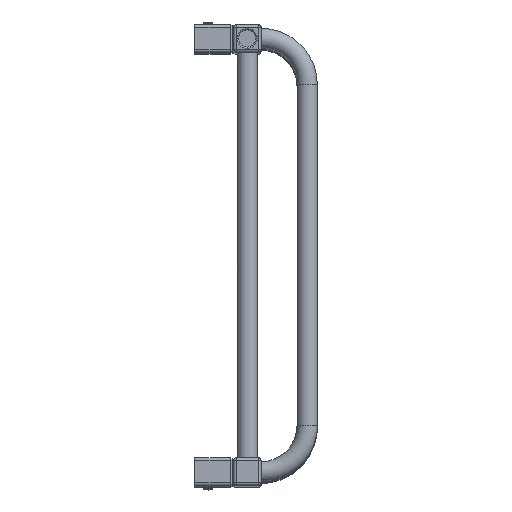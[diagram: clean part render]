
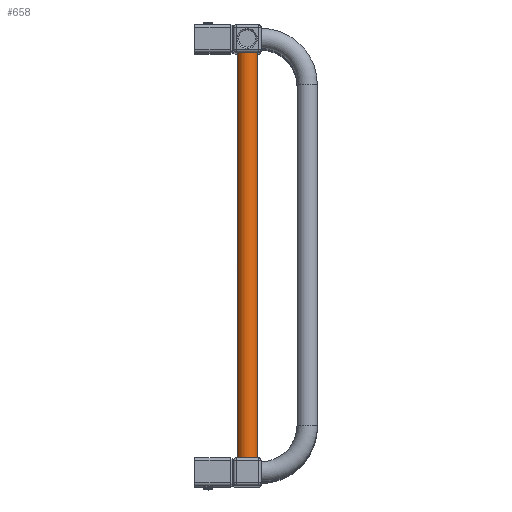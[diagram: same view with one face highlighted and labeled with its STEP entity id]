
A CAD part, top view. The second image highlights one B-rep face of the part: STEP entity #658.
In plain terms, the highlighted cylindrical face has radius 11 mm (diameter 22 mm), a full revolution.
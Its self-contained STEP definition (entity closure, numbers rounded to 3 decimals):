
#631=CARTESIAN_POINT('',(0.0,-220.0,910.));
#632=DIRECTION('',(0.0,1.0,0.0));
#633=DIRECTION('',(-1.0,0.0,0.0));
#634=AXIS2_PLACEMENT_3D('',#631,#632,#633);
#635=CYLINDRICAL_SURFACE('',#634,11.);
#636=CARTESIAN_POINT('',(11.,-220.0,910.));
#637=VERTEX_POINT('',#636);
#638=CARTESIAN_POINT('',(0.0,-220.0,910.));
#639=DIRECTION('',(0.0,-1.0,0.0));
#640=DIRECTION('',(-1.0,0.0,0.0));
#641=AXIS2_PLACEMENT_3D('',#638,#639,#640);
#642=CIRCLE('',#641,11.);
#643=EDGE_CURVE('',#637,#637,#642,.T.);
#644=ORIENTED_EDGE('',*,*,#643,.F.);
#645=EDGE_LOOP('',(#644));
#646=FACE_OUTER_BOUND('',#645,.T.);
#647=CARTESIAN_POINT('',(11.,220.0,910.));
#648=VERTEX_POINT('',#647);
#649=CARTESIAN_POINT('',(0.0,220.0,910.));
#650=DIRECTION('',(0.0,1.0,0.0));
#651=DIRECTION('',(-1.0,0.0,0.0));
#652=AXIS2_PLACEMENT_3D('',#649,#650,#651);
#653=CIRCLE('',#652,11.);
#654=EDGE_CURVE('',#648,#648,#653,.T.);
#655=ORIENTED_EDGE('',*,*,#654,.F.);
#656=EDGE_LOOP('',(#655));
#657=FACE_BOUND('',#656,.T.);
#658=ADVANCED_FACE('',(#646,#657),#635,.T.);
